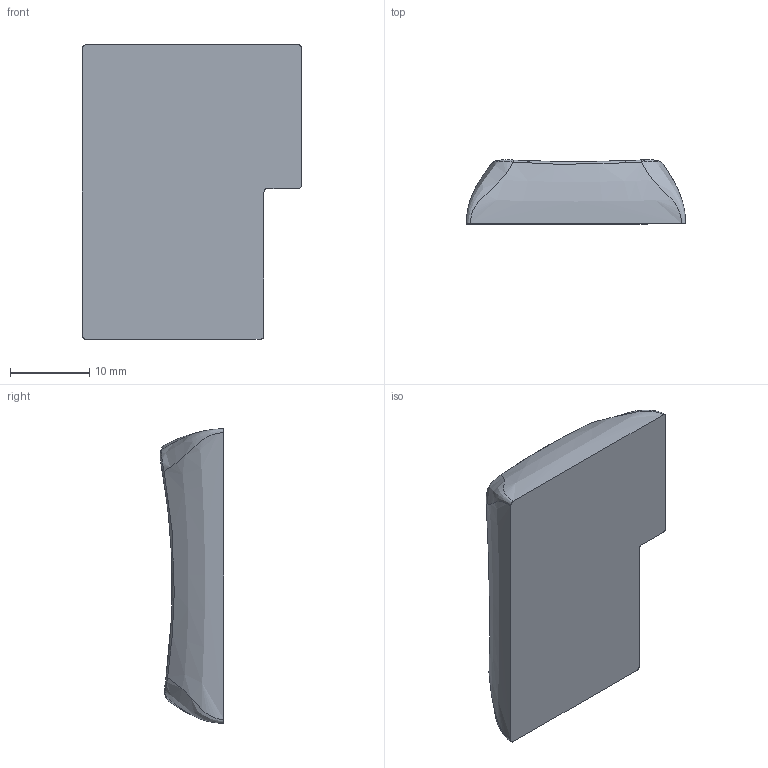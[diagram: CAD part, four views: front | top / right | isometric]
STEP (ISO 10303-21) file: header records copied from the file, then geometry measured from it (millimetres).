
FILE_DESCRIPTION (( 'STEP AP203' ), '1' );
FILE_NAME ('R2+3_1,5x2x1,25U-vertikal_base_v3.2.1_GMK.STEP', '2023-03-07T11:01:38', ( '' ), ( '' ), 'SwSTEP 2.0', 'SolidWorks 2022', '' );
FILE_SCHEMA (( 'CONFIG_CONTROL_DESIGN' ));
Length unit declared in the file: millimetre
Products named in the file (1): R2+3_1,5x2x1,25U-vertikal_base_v3.2.1_GMK
Bounding box: 27.72 x 8.09 x 37.24 mm (x, y, z)
Volume: 5642.8 mm3; surface area: 2481.6 mm2
Topology: 1 solids, 1 shells, 26 faces, 60 edges, 36 vertices
Faces by surface type: bspline 25, plane 1
Entity records: 3247 total; most frequent: CARTESIAN_POINT 2786, ORIENTED_EDGE 120, EDGE_CURVE 60, B_SPLINE_CURVE_WITH_KNOTS 54, VERTEX_POINT 36, FACE_OUTER_BOUND 26, ADVANCED_FACE 26, EDGE_LOOP 26
